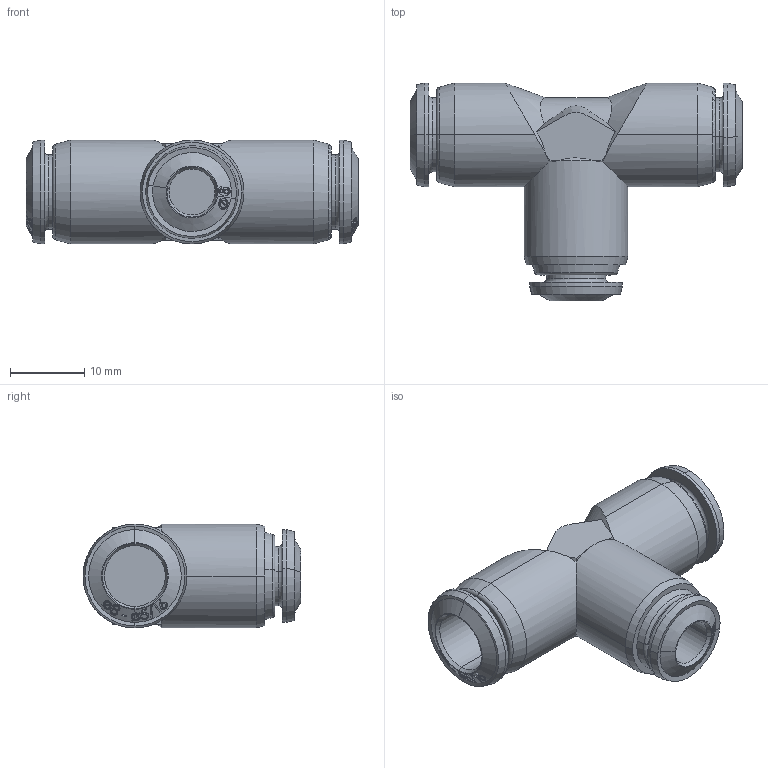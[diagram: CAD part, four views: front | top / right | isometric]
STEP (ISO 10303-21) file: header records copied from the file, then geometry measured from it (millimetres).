
FILE_DESCRIPTION (( 'STEP AP214' ), '1' );
FILE_NAME ('5523000010A.step', '2012-10-02T17:44:12', ( '' ), ( '' ), 'SwSTEP 2.0', 'SolidWorks 2012', '' );
FILE_SCHEMA (( 'AUTOMOTIVE_DESIGN' ));
Length unit declared in the file: millimetre
Products named in the file (1): 5523000010A
Bounding box: 44.8 x 29.4 x 14 mm (x, y, z)
Volume: 7288.4 mm3; surface area: 3706 mm2
Topology: 1 solids, 1 shells, 372 faces, 977 edges, 646 vertices
Faces by surface type: bspline 231, cone 77, plane 27, cylinder 25, torus 12
Entity records: 26031 total; most frequent: CARTESIAN_POINT 18627, ORIENTED_EDGE 1954, EDGE_CURVE 977, B_SPLINE_CURVE_WITH_KNOTS 757, VERTEX_POINT 646, DIRECTION 584, EDGE_LOOP 411, ADVANCED_FACE 372
